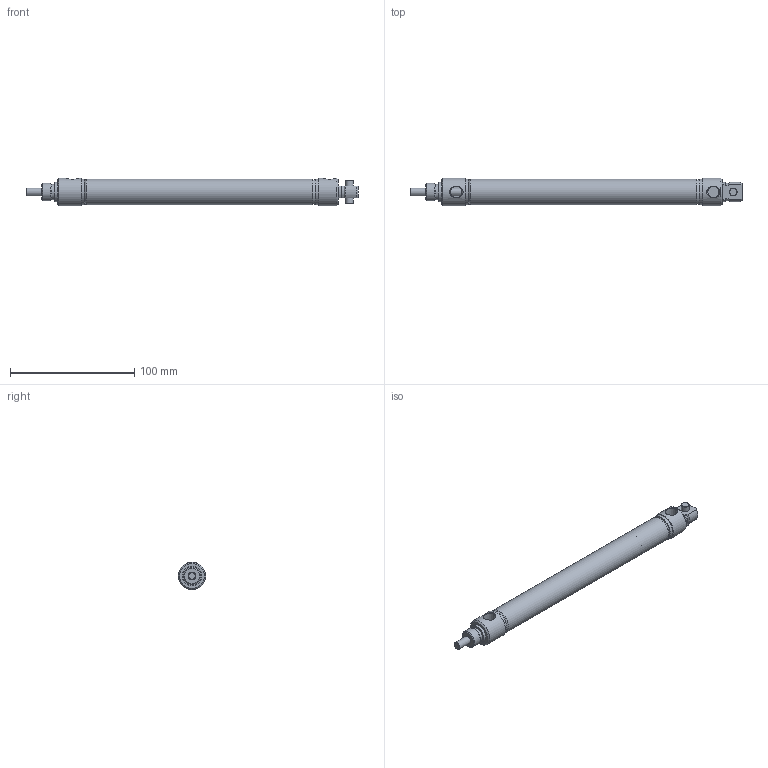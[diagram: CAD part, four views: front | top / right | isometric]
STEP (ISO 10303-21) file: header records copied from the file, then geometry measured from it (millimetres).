
FILE_DESCRIPTION( ( 'STEP AP214' ), '1' );
FILE_NAME( 'p:/temp/worker_430/temp/exporttempdir_83700_40_xaJui/format_0/0750D02-06A-03.stp', '2020-05-07T14:43:08', ( 'License CC BY-ND 4.0' ), ( 'CADENAS' ), ' ', 'PARTsolutions', ' ' );
FILE_SCHEMA( ( 'AUTOMOTIVE_DESIGN { 1 0 10303 214 1 1 1 1 }' ) );
Length unit declared in the file: inch
Products named in the file (3): 0750D02-06A-03; _0750D02-06A-0300A00A0b; _0750D02-06A-0300A00A0r
Assembly tree (2 placements, depth 2):
  0750D02-06A-03
    _0750D02-06A-0300A00A0b
    _0750D02-06A-0300A00A0r
Bounding box: 267.49 x 22.23 x 22.23 mm (x, y, z)
Volume: 41276.2 mm3; surface area: 36157.4 mm2
Topology: 2 solids, 2 shells, 64 faces, 128 edges, 82 vertices
Faces by surface type: plane 24, cylinder 21, cone 19
Full cylindrical faces by diameter (mm): 6.35 x5, 12.609 x1, 14.287 x1, 15.85 x1, 19.05 x2, 20.472 x1, 20.65 x2, 22.225 x2
Entity records: 2302 total; most frequent: CARTESIAN_POINT 499, DIRECTION 274, ORIENTED_EDGE 198, AXIS2_PLACEMENT_3D 126, EDGE_LOOP 106, EDGE_CURVE 99, FACE_OUTER_BOUND 79, VERTEX_POINT 79
